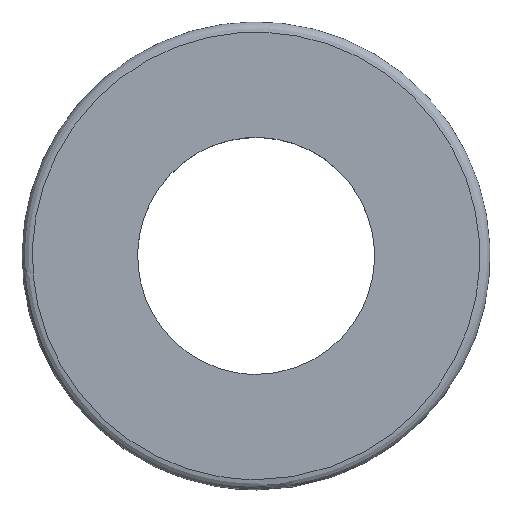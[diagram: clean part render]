
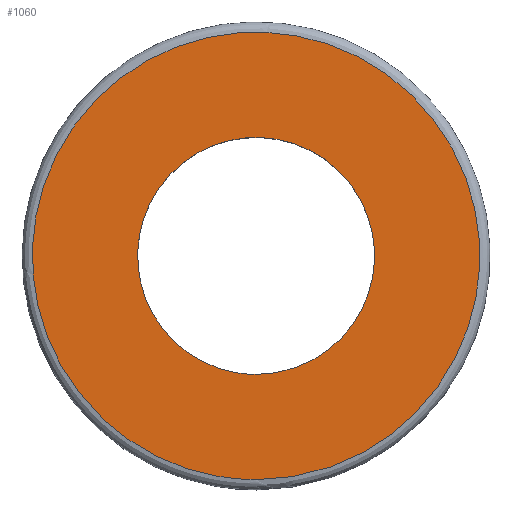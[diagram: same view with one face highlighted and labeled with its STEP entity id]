
A CAD part, top view. The second image highlights one B-rep face of the part: STEP entity #1060.
In plain terms, the highlighted free-form (B-spline) face has degree [1, 1] with [2, 2] control points.
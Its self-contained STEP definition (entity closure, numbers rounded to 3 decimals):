
#390 = CARTESIAN_POINT ('', (0., 72.463, 134.35));
#400 = VERTEX_POINT ('', #390);
#410 = CARTESIAN_POINT ('', (0., 72.463, 134.35));
#420 = CARTESIAN_POINT ('', (4.05, 72.463, 134.35));
#430 = CARTESIAN_POINT ('', (4.05, 76.513, 134.35));
#440 = CARTESIAN_POINT ('', (4.05, 80.563, 134.35));
#450 = CARTESIAN_POINT ('', (0., 80.563, 134.35));
#460 = CARTESIAN_POINT ('', (-4.05, 80.563, 134.35));
#470 = CARTESIAN_POINT ('', (-4.05, 76.513, 134.35));
#480 = CARTESIAN_POINT ('', (-4.05, 72.463, 134.35));
#490 = CARTESIAN_POINT ('', (0., 72.463, 134.35));
#500 = (
   BOUNDED_CURVE ()
   B_SPLINE_CURVE (2, (#410, #420, #430, #440, #450, #460, #470, #480, #490), .UNSPECIFIED., .T., .U.)
   B_SPLINE_CURVE_WITH_KNOTS ((3, 2, 2, 2, 3), (0., 0.25, 0.5, 0.75, 1.), .UNSPECIFIED.)
   CURVE ()
   GEOMETRIC_REPRESENTATION_ITEM ()
   RATIONAL_B_SPLINE_CURVE ((1., 0.707, 1., 0.707, 1., 0.707, 1., 0.707, 1.))
   REPRESENTATION_ITEM ('')
);
#510 = EDGE_CURVE ('', #400, #400, #500, .T.);
#820 = CARTESIAN_POINT ('', (0., 68.863, 134.35));
#830 = VERTEX_POINT ('', #820);
#840 = CARTESIAN_POINT ('', (0., 68.863, 134.35));
#850 = CARTESIAN_POINT ('', (7.65, 68.863, 134.35));
#860 = CARTESIAN_POINT ('', (7.65, 76.513, 134.35));
#870 = CARTESIAN_POINT ('', (7.65, 84.163, 134.35));
#880 = CARTESIAN_POINT ('', (0., 84.163, 134.35));
#890 = CARTESIAN_POINT ('', (-7.65, 84.163, 134.35));
#900 = CARTESIAN_POINT ('', (-7.65, 76.513, 134.35));
#910 = CARTESIAN_POINT ('', (-7.65, 68.863, 134.35));
#920 = CARTESIAN_POINT ('', (0., 68.863, 134.35));
#930 = (
   BOUNDED_CURVE ()
   B_SPLINE_CURVE (2, (#840, #850, #860, #870, #880, #890, #900, #910, #920), .UNSPECIFIED., .T., .U.)
   B_SPLINE_CURVE_WITH_KNOTS ((3, 2, 2, 2, 3), (0., 0.25, 0.5, 0.75, 1.), .UNSPECIFIED.)
   CURVE ()
   GEOMETRIC_REPRESENTATION_ITEM ()
   RATIONAL_B_SPLINE_CURVE ((1., 0.707, 1., 0.707, 1., 0.707, 1., 0.707, 1.))
   REPRESENTATION_ITEM ('')
);
#940 = EDGE_CURVE ('', #830, #830, #930, .T.);
#950 = ORIENTED_EDGE ('', *, *, #940, .T.);
#960 = EDGE_LOOP ('', (#950));
#970 = FACE_OUTER_BOUND ('', #960, .T.);
#980 = ORIENTED_EDGE ('', *, *, #510, .F.);
#990 = EDGE_LOOP ('', (#980));
#1000 = FACE_BOUND ('', #990, .T.);
#1010 = CARTESIAN_POINT ('', (-8.8, 85.313, 134.35));
#1020 = CARTESIAN_POINT ('', (8.8, 85.313, 134.35));
#1030 = CARTESIAN_POINT ('', (-8.8, 67.713, 134.35));
#1040 = CARTESIAN_POINT ('', (8.8, 67.713, 134.35));
#1050 = B_SPLINE_SURFACE_WITH_KNOTS ('', 1, 1, ((#1010, #1020), (#1030, #1040)), .UNSPECIFIED., .F., .F., .U., (2, 2), (2, 2), (0., 1.), (0., 1.), .UNSPECIFIED.);
#1060 = ADVANCED_FACE ('', (#970, #1000), #1050, .T.);
